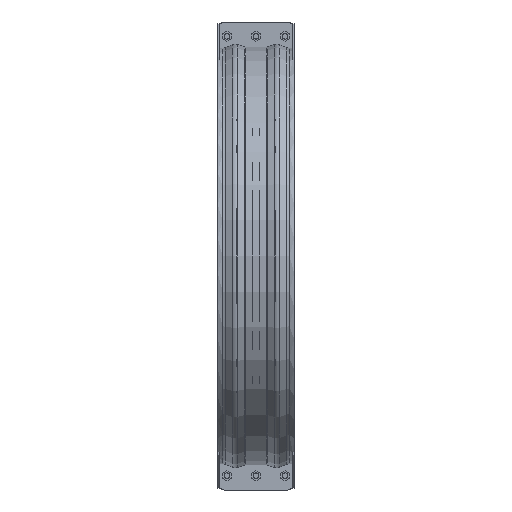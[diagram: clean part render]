
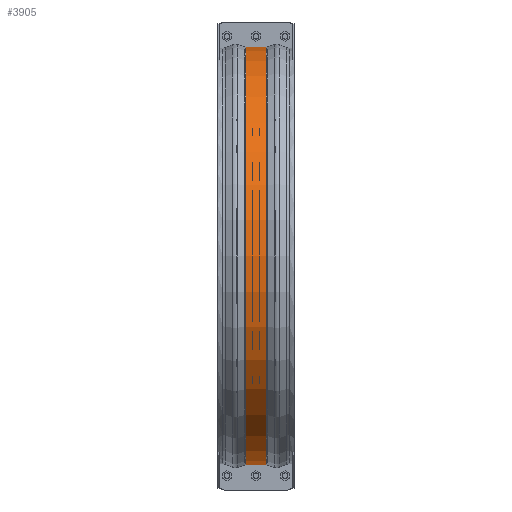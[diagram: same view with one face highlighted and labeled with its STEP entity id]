
A CAD part, front view. The second image highlights one B-rep face of the part: STEP entity #3905.
In plain terms, the highlighted cylindrical face has radius 694.039 mm (diameter 1388.08 mm), a partial arc.
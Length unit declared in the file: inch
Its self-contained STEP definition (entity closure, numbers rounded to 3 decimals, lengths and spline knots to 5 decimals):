
#352=FACE_OUTER_BOUND('',#569,.T.);
#569=EDGE_LOOP('',(#2949,#2950,#2951,#2952));
#870=LINE('',#6065,#1235);
#878=LINE('',#6197,#1243);
#1235=VECTOR('',#4844,0.3937);
#1243=VECTOR('',#4904,0.3937);
#1479=CIRCLE('',#4185,27.32439);
#1481=CIRCLE('',#4189,27.32439);
#1740=VERTEX_POINT('',#6057);
#1741=VERTEX_POINT('',#6064);
#1756=VERTEX_POINT('',#6182);
#1758=VERTEX_POINT('',#6195);
#2175=EDGE_CURVE('',#1741,#1740,#870,.T.);
#2200=EDGE_CURVE('',#1756,#1741,#1479,.T.);
#2204=EDGE_CURVE('',#1758,#1740,#1481,.T.);
#2205=EDGE_CURVE('',#1758,#1756,#878,.T.);
#2949=ORIENTED_EDGE('',*,*,#2175,.T.);
#2950=ORIENTED_EDGE('',*,*,#2204,.F.);
#2951=ORIENTED_EDGE('',*,*,#2205,.T.);
#2952=ORIENTED_EDGE('',*,*,#2200,.T.);
#3582=CYLINDRICAL_SURFACE('',#4188,27.32439);
#3905=ADVANCED_FACE('',(#352),#3582,.T.);
#4185=AXIS2_PLACEMENT_3D('',#6183,#4893,#4894);
#4188=AXIS2_PLACEMENT_3D('',#6194,#4900,#4901);
#4189=AXIS2_PLACEMENT_3D('',#6196,#4902,#4903);
#4844=DIRECTION('',(1.,0.,0.));
#4893=DIRECTION('center_axis',(1.,0.,0.));
#4894=DIRECTION('ref_axis',(0.,0.,-1.));
#4900=DIRECTION('center_axis',(1.,0.,0.));
#4901=DIRECTION('ref_axis',(0.,-1.,0.));
#4902=DIRECTION('center_axis',(1.,0.,0.));
#4903=DIRECTION('ref_axis',(0.,0.,-1.));
#4904=DIRECTION('',(-1.,0.,0.));
#6057=CARTESIAN_POINT('',(1.31451,-0.375,-27.32181));
#6064=CARTESIAN_POINT('',(-1.31451,-0.375,-27.32181));
#6065=CARTESIAN_POINT('',(0.,-0.375,-27.32181));
#6182=CARTESIAN_POINT('',(-1.31451,-0.375,27.32181));
#6183=CARTESIAN_POINT('Origin',(-1.31451,0.,0.));
#6194=CARTESIAN_POINT('Origin',(0.,0.,0.));
#6195=CARTESIAN_POINT('',(1.31451,-0.375,27.32181));
#6196=CARTESIAN_POINT('Origin',(1.31451,0.,0.));
#6197=CARTESIAN_POINT('',(0.,-0.375,27.32181));
